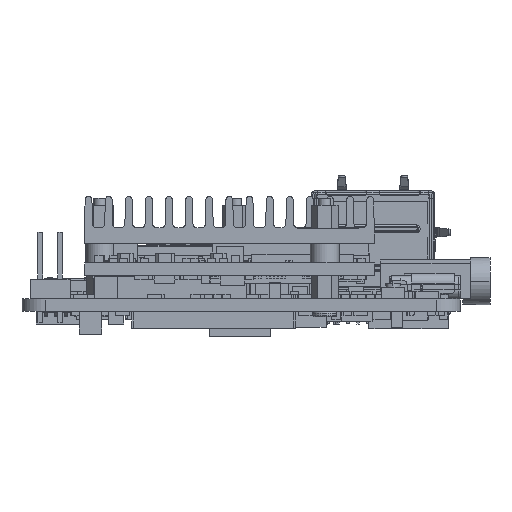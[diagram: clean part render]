
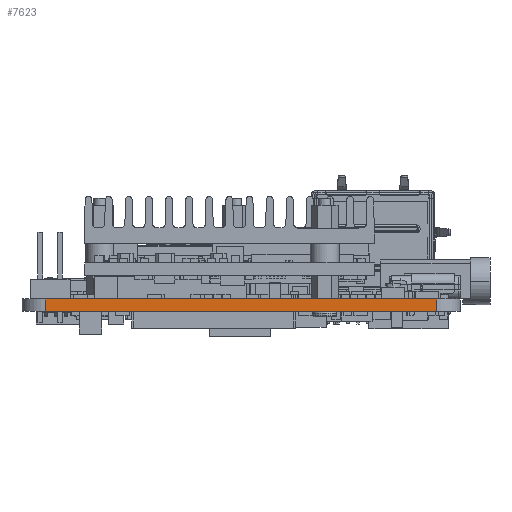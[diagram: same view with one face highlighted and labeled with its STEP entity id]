
A CAD part, left-side view. The second image highlights one B-rep face of the part: STEP entity #7623.
In plain terms, the highlighted planar face has unit normal (-1, 0, 0).
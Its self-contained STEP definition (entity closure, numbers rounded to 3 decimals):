
#26=DIRECTION('',(0.,-1.,0.));
#27=VECTOR('',#26,50.);
#28=CARTESIAN_POINT('',(-42.5,25.,0.));
#29=LINE('',#28,#27);
#1823=DIRECTION('',(0.,-1.,0.));
#1824=VECTOR('',#1823,50.);
#1825=CARTESIAN_POINT('',(-42.5,25.,-1.6));
#1826=LINE('',#1825,#1824);
#3564=DIRECTION('',(0.,0.,-1.));
#3565=VECTOR('',#3564,1.6);
#3566=CARTESIAN_POINT('',(-42.5,-25.,0.));
#3567=LINE('',#3566,#3565);
#3571=DIRECTION('',(0.,0.,-1.));
#3572=VECTOR('',#3571,1.6);
#3573=CARTESIAN_POINT('',(-42.5,25.,0.));
#3574=LINE('',#3573,#3572);
#5261=CARTESIAN_POINT('',(-42.5,-25.,-1.6));
#5263=VERTEX_POINT('',#5261);
#5264=CARTESIAN_POINT('',(-42.5,-25.,0.));
#5265=VERTEX_POINT('',#5264);
#5268=CARTESIAN_POINT('',(-42.5,25.,-1.6));
#5270=VERTEX_POINT('',#5268);
#5274=CARTESIAN_POINT('',(-42.5,25.,0.));
#5275=VERTEX_POINT('',#5274);
#7612=CARTESIAN_POINT('',(-42.5,28.,0.));
#7613=DIRECTION('',(-1.,0.,0.));
#7614=DIRECTION('',(0.,-1.,0.));
#7615=AXIS2_PLACEMENT_3D('',#7612,#7613,#7614);
#7616=PLANE('',#7615);
#7617=ORIENTED_EDGE('',*,*,#6857,.T.);
#7618=ORIENTED_EDGE('',*,*,#6883,.F.);
#7619=ORIENTED_EDGE('',*,*,#7607,.F.);
#7620=ORIENTED_EDGE('',*,*,#6187,.T.);
#7621=EDGE_LOOP('',(#7617,#7618,#7619,#7620));
#7622=FACE_OUTER_BOUND('',#7621,.F.);
#6187=EDGE_CURVE('',#5275,#5265,#29,.T.);
#6857=EDGE_CURVE('',#5265,#5263,#3567,.T.);
#6883=EDGE_CURVE('',#5270,#5263,#1826,.T.);
#7607=EDGE_CURVE('',#5275,#5270,#3574,.T.);
#7623=ADVANCED_FACE('',(#7622),#7616,.T.);
